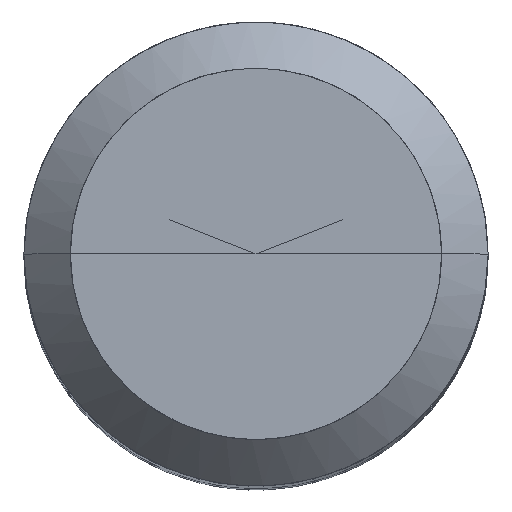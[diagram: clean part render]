
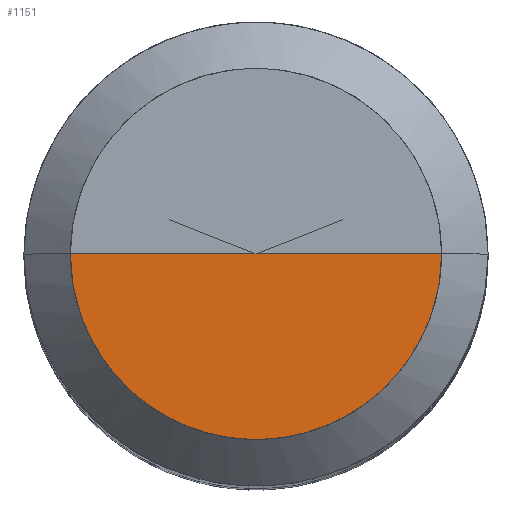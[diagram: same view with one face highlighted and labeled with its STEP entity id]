
A CAD part, top view. The second image highlights one B-rep face of the part: STEP entity #1151.
In plain terms, the highlighted free-form (B-spline) face has degree [1, 2] with [2, 5] control points.
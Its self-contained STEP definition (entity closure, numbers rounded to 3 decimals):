
#883=CARTESIAN_POINT('',(7.2,0.0,55.0));
#887=CARTESIAN_POINT('',(-7.2,0.0,55.0));
#888=CARTESIAN_POINT('',(0.0,0.0,55.0));
#892=CARTESIAN_POINT('',(-7.2,-7.2,55.0));
#893=CARTESIAN_POINT('',(0.0,-7.2,55.0));
#894=CARTESIAN_POINT('',(7.2,-7.2,55.0));
#1136=(
BOUNDED_SURFACE()
B_SPLINE_SURFACE(1,2,(
(#887,#892,#893,#894,#883),
(#888,#888,#888,#888,#888)
), .UNSPECIFIED.,.F.,.F.,.F.)
B_SPLINE_SURFACE_WITH_KNOTS((2,2),(3,2,3),(
0.0,1.0),(
0.0,0.5,1.0), .UNSPECIFIED.)
GEOMETRIC_REPRESENTATION_ITEM()
RATIONAL_B_SPLINE_SURFACE(((1.0,0.707,1.0,0.707,1.0),
(1.0,0.707,1.0,0.707,1.0)
))
REPRESENTATION_ITEM('')
SURFACE()
);
#1137=(
BOUNDED_CURVE()
B_SPLINE_CURVE(2,(#883,#894,#893,#892,#887),.UNSPECIFIED.,.F.,.F.)
B_SPLINE_CURVE_WITH_KNOTS((3,2,3),
(0.0,0.5,1.0),.UNSPECIFIED.)
CURVE()
GEOMETRIC_REPRESENTATION_ITEM()
RATIONAL_B_SPLINE_CURVE((1.0,0.707,1.0,0.707,1.0))
REPRESENTATION_ITEM('')
);
#1138=(
BOUNDED_CURVE()
B_SPLINE_CURVE(1,(#887,#888),.UNSPECIFIED.,.F.,.F.)
B_SPLINE_CURVE_WITH_KNOTS((2,2),
(0.0,1.0),.UNSPECIFIED.)
CURVE()
GEOMETRIC_REPRESENTATION_ITEM()
RATIONAL_B_SPLINE_CURVE((1.0,1.0))
REPRESENTATION_ITEM('')
);
#1139=(
BOUNDED_CURVE()
B_SPLINE_CURVE(1,(#888,#883),.UNSPECIFIED.,.F.,.F.)
B_SPLINE_CURVE_WITH_KNOTS((2,2),
(0.0,1.0),.UNSPECIFIED.)
CURVE()
GEOMETRIC_REPRESENTATION_ITEM()
RATIONAL_B_SPLINE_CURVE((1.0,1.0))
REPRESENTATION_ITEM('')
);
#1140=VERTEX_POINT('',#883);
#1141=VERTEX_POINT('',#887);
#1142=VERTEX_POINT('',#888);
#1143=EDGE_CURVE('',#1140,#1141,#1137,.T.);
#1144=EDGE_CURVE('',#1141,#1142,#1138,.T.);
#1145=EDGE_CURVE('',#1142,#1140,#1139,.T.);
#1146=ORIENTED_EDGE('',*,*,#1143,.T.);
#1147=ORIENTED_EDGE('',*,*,#1144,.T.);
#1148=ORIENTED_EDGE('',*,*,#1145,.T.);
#1149=EDGE_LOOP('',(#1146,#1147,#1148));
#1150=FACE_OUTER_BOUND('',#1149,.T.);
#1151=ADVANCED_FACE('',(#1150),#1136,.T.);
